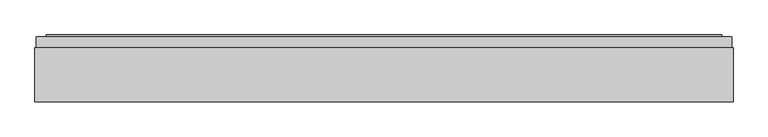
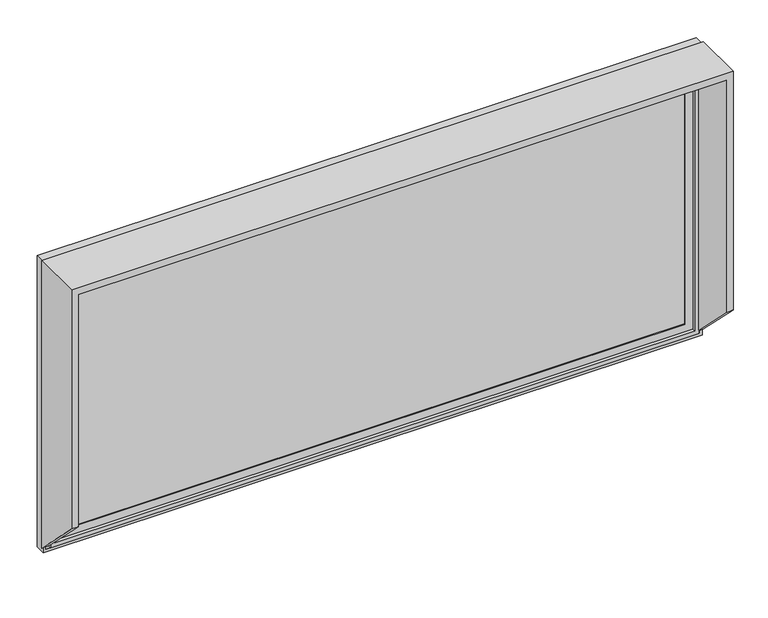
"""IFC4 building model written with IfcOpenShell, lengths in millimetres: plate geometry, SCISSOR PANEL : SCISSOR PANEL."""

from ifc_helpers import new_model, si_unit, frame, origin, place, context, project, spatial, polyline, outline, extrude, faceted_brep, source, transform, mapped, element, save


def plate_333e3654(model_context):
    return source(origin(), model_context, "Body", "SolidModel", [
        faceted_brep([(-851.0951718, 132.5, 800.0), (851.0951718, 132.5, 800.0), (851.0951718, 132.5, 17.5), (833.5951718, 132.5, 17.5), (833.5951718, 132.5, 782.5), (-833.5951718, 132.5, 782.5), (-833.5951718, 132.5, 17.5), (-851.0951718, 132.5, 17.5), (-833.5951718, 0.0, 782.5), (-833.5951718, 0.0, 150.0), (833.5951718, 0.0, 150.0), (833.5951718, 0.0, 782.5), (-851.0951718, 0.0, 150.0), (851.0951718, 0.0, 150.0), (851.0951718, 0.0, 800.0), (-851.0951718, 0.0, 800.0)], [[[0, 1, 2, 3, 4, 5, 6, 7]], [[6, 5, 8, 9]], [[4, 3, 10, 11]], [[9, 12, 7, 6]], [[13, 10, 3, 2]], [[14, 15, 12, 9, 8, 11, 10, 13]], [[15, 0, 7, 12]], [[1, 14, 13, 2]], [[15, 14, 1, 0]], [[11, 8, 5, 4]]]),
        extrude(outline(polyline([(-820.5951718, 160.5), (820.5951718, 160.5), (820.5951718, 135.5), (-820.5951718, 135.5), (-820.5951718, 160.5)])), frame((0.0, 0.0, 30.5), z_axis=(0.0, 0.0, 1.0), x_axis=(1.0, 0.0, 0.0)), (0.0, 0.0, 1.0), 739.0),
        faceted_brep([(-803.5951718, 135.5, 752.5), (-803.5951718, 132.5, 752.5), (-803.5951718, 132.5, 47.5), (-803.5951718, 135.5, 47.5), (-820.5951718, 160.5, 769.5), (-820.5951718, 135.5, 769.5), (-820.5951718, 135.5, 30.5), (-820.5951718, 160.5, 30.5), (-803.5951718, 163.5, 752.5), (-803.5951718, 160.5, 752.5), (-803.5951718, 160.5, 47.5), (-803.5951718, 163.5, 47.5), (-823.5951718, 132.5, 772.5), (-823.5951718, 163.5, 772.5), (-823.5951718, 163.5, 27.5), (-823.5951718, 132.5, 27.5), (803.5951718, 132.5, 47.5), (803.5951718, 135.5, 47.5), (820.5951718, 135.5, 30.5), (820.5951718, 160.5, 30.5), (803.5951718, 160.5, 47.5), (803.5951718, 163.5, 47.5), (823.5951718, 163.5, 27.5), (823.5951718, 132.5, 27.5), (803.5951718, 132.5, 752.5), (803.5951718, 135.5, 752.5), (820.5951718, 135.5, 769.5), (820.5951718, 160.5, 769.5), (803.5951718, 160.5, 752.5), (803.5951718, 163.5, 752.5), (823.5951718, 163.5, 772.5), (823.5951718, 132.5, 772.5)], [[[0, 1, 2, 3]], [[4, 5, 6, 7]], [[8, 9, 10, 11]], [[12, 13, 14, 15]], [[3, 2, 16, 17]], [[7, 6, 18, 19]], [[11, 10, 20, 21]], [[15, 14, 22, 23]], [[17, 16, 24, 25]], [[19, 18, 26, 27]], [[21, 20, 28, 29]], [[23, 22, 30, 31]], [[15, 23, 31, 12], [1, 24, 16, 2]], [[25, 24, 1, 0]], [[5, 26, 18, 6], [3, 17, 25, 0]], [[27, 26, 5, 4]], [[7, 19, 27, 4], [9, 28, 20, 10]], [[29, 28, 9, 8]], [[13, 30, 22, 14], [11, 21, 29, 8]], [[31, 30, 13, 12]]]),
        faceted_brep([(-847.5951718, 132.5, 796.5), (-847.5951718, 158.75, 796.5), (-847.5951718, 158.75, 3.5), (-847.5951718, 132.5, 3.5), (-840.5951718, 150.0, 789.5), (-840.5951718, 132.5, 789.5), (-840.5951718, 132.5, 10.5), (-840.5951718, 150.0, 10.5), (-833.5951718, 123.75, 782.5), (-833.5951718, 150.0, 782.5), (-833.5951718, 150.0, 17.5), (-833.5951718, 123.75, 17.5), (-823.5951718, 158.75, 772.5), (-823.5951718, 123.75, 772.5), (-823.5951718, 123.75, 27.5), (-823.5951718, 158.75, 27.5), (847.5951718, 158.75, 3.5), (847.5951718, 132.5, 3.5), (840.5951718, 132.5, 10.5), (840.5951718, 150.0, 10.5), (833.5951718, 150.0, 17.5), (833.5951718, 123.75, 17.5), (823.5951718, 123.75, 27.5), (823.5951718, 158.75, 27.5), (847.5951718, 158.75, 796.5), (847.5951718, 132.5, 796.5), (840.5951718, 132.5, 789.5), (840.5951718, 150.0, 789.5), (833.5951718, 150.0, 782.5), (833.5951718, 123.75, 782.5), (823.5951718, 123.75, 772.5), (823.5951718, 158.75, 772.5)], [[[0, 1, 2, 3]], [[4, 5, 6, 7]], [[8, 9, 10, 11]], [[12, 13, 14, 15]], [[3, 2, 16, 17]], [[7, 6, 18, 19]], [[11, 10, 20, 21]], [[15, 14, 22, 23]], [[17, 16, 24, 25]], [[19, 18, 26, 27]], [[21, 20, 28, 29]], [[23, 22, 30, 31]], [[25, 24, 1, 0]], [[3, 17, 25, 0], [5, 26, 18, 6]], [[27, 26, 5, 4]], [[7, 19, 27, 4], [9, 28, 20, 10]], [[29, 28, 9, 8]], [[11, 21, 29, 8], [13, 30, 22, 14]], [[31, 30, 13, 12]], [[1, 24, 16, 2], [15, 23, 31, 12]]]),
        extrude(outline(polyline([(789.5, -840.5951718), (10.5, -840.5951718), (10.5, 840.5951718), (789.5, 840.5951718), (789.5, -840.5951718)]), holes=[polyline([(782.5, -833.5951718), (782.5, 833.5951718), (17.5, 833.5951718), (17.5, -833.5951718), (782.5, -833.5951718)])]), frame((0.0, 132.5, 0.0), z_axis=(0.0, 1.0, 0.0), x_axis=(0.0, 0.0, 1.0)), (0.0, 0.0, 1.0), 17.5),
    ])


if __name__ == "__main__":
    model = new_model("IFC4")
    model_context = context("Model", 3, world=origin())
    ifc_project = project(units=[si_unit("LENGTHUNIT", "METRE", prefix="MILLI")], contexts=[model_context])
    site = spatial("IfcSite", under=ifc_project)
    building = spatial("IfcBuilding", under=site)
    placement = place(None, origin())
    plate_shape = plate_333e3654(model_context)
    element("IfcPlate", 1, ObjectType="SCISSOR PANEL : SCISSOR PANEL", at=placement, inside=building, context=model_context, shape_type="MappedRepresentation", body=[
        mapped(plate_shape, transform((0.0, 0.0, 0.0), x_axis=(1.0, 0.0, 0.0), y_axis=(0.0, 1.0, 0.0), z_axis=(0.0, 0.0, 1.0))),
    ])
    save(model, "model.ifc")
